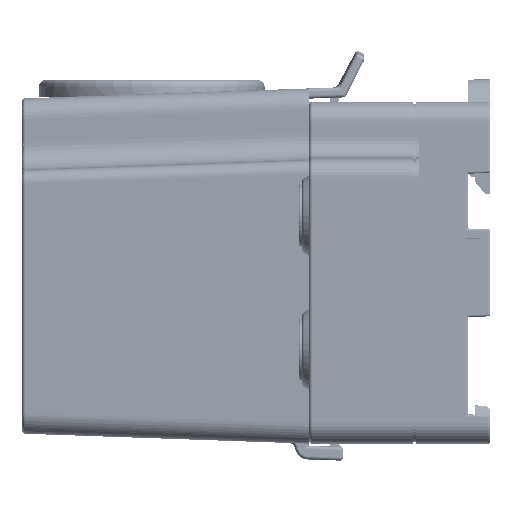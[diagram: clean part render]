
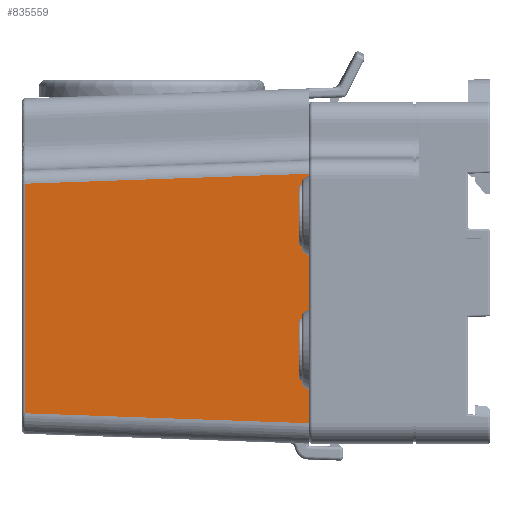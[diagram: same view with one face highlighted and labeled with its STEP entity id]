
A CAD part, left-side view. The second image highlights one B-rep face of the part: STEP entity #835559.
In plain terms, the highlighted planar face has unit normal (-0.999, 0.035, 0).
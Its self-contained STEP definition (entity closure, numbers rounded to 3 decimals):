
#239384=DIRECTION('',(0.,0.,-1.));
#239385=VECTOR('',#239384,36.503);
#239386=CARTESIAN_POINT('',(-63.5,7.6,14.501));
#239387=LINE('',#239386,#239385);
#250768=DIRECTION('',(-0.035,-0.999,
-0.035));
#250769=VECTOR('',#250768,41.568);
#250770=CARTESIAN_POINT('',(-62.05,49.117,
-20.552));
#250771=LINE('',#250770,#250769);
#250772=DIRECTION('',(0.,0.,1.));
#250773=VECTOR('',#250772,33.603);
#250774=CARTESIAN_POINT('',(-62.05,49.117,
-20.552));
#250775=LINE('',#250774,#250773);
#250776=DIRECTION('',(0.035,0.999,-0.035));
#250777=VECTOR('',#250776,41.568);
#250778=CARTESIAN_POINT('',(-63.5,7.6,14.501));
#250779=LINE('',#250778,#250777);
#250790=CARTESIAN_POINT('',(-62.05,49.117,
-20.552));
#402569=VERTEX_POINT('',#250790);
#402572=CARTESIAN_POINT('',(-62.05,49.117,
13.051));
#402573=VERTEX_POINT('',#402572);
#402883=CARTESIAN_POINT('',(-63.5,7.6,14.501));
#402884=CARTESIAN_POINT('',(-63.5,7.6,-22.002));
#402885=VERTEX_POINT('',#402883);
#402886=VERTEX_POINT('',#402884);
#835545=CARTESIAN_POINT('',(-63.5,7.6,-27.2));
#835546=DIRECTION('',(-0.999,0.035,0.));
#835547=DIRECTION('',(0.,0.,-1.));
#835548=AXIS2_PLACEMENT_3D('',#835545,#835546,#835547);
#835549=PLANE('',#835548);
#835550=ORIENTED_EDGE('',*,*,#819655,.T.);
#835552=ORIENTED_EDGE('',*,*,#835551,.F.);
#835554=ORIENTED_EDGE('',*,*,#835553,.T.);
#835556=ORIENTED_EDGE('',*,*,#835555,.F.);
#835557=EDGE_LOOP('',(#835550,#835552,#835554,#835556));
#835558=FACE_OUTER_BOUND('',#835557,.F.);
#835559=ADVANCED_FACE('',(#835558),#835549,.T.);
#819655=EDGE_CURVE('',#402885,#402886,#239387,.T.);
#835551=EDGE_CURVE('',#402569,#402886,#250771,.T.);
#835553=EDGE_CURVE('',#402569,#402573,#250775,.T.);
#835555=EDGE_CURVE('',#402885,#402573,#250779,.T.);
